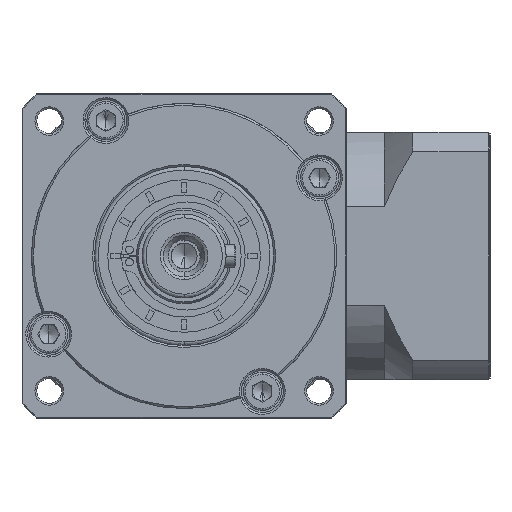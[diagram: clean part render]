
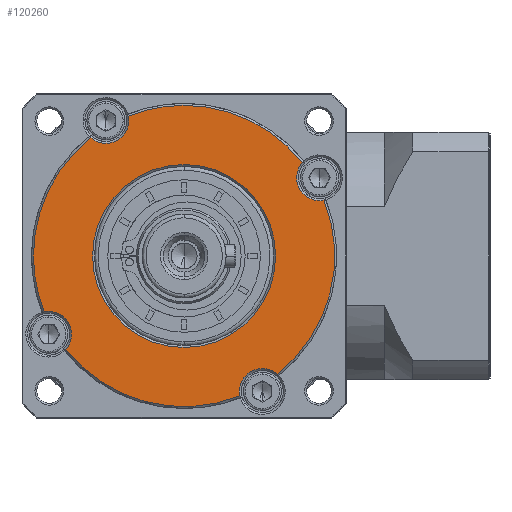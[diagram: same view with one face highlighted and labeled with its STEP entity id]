
A CAD part, left-side view. The second image highlights one B-rep face of the part: STEP entity #120260.
In plain terms, the highlighted planar face has unit normal (-1, 0, 0).
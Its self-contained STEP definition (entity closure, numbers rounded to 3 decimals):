
#893 = VERTEX_POINT ( 'NONE', #109513 ) ;
#2058 = EDGE_CURVE ( 'NONE', #65407, #8092, #27658, .T. ) ;
#5137 = EDGE_CURVE ( 'NONE', #8092, #172913, #115019, .T. ) ;
#7187 = EDGE_CURVE ( 'NONE', #135425, #107967, #164231, .T. ) ;
#8065 = CARTESIAN_POINT ( 'NONE',  ( -97.713, 14.512, -87.576 ) ) ;
#8092 = VERTEX_POINT ( 'NONE', #169255 ) ;
#9506 = ORIENTED_EDGE ( 'NONE', *, *, #57491, .T. ) ;
#11163 = VERTEX_POINT ( 'NONE', #166959 ) ;
#14720 = CIRCLE ( 'NONE', #62467, 39.5 ) ;
#16770 = EDGE_LOOP ( 'NONE', ( #45372, #56341 ) ) ;
#16992 = CIRCLE ( 'NONE', #27768, 39.5 ) ;
#18068 = CARTESIAN_POINT ( 'NONE',  ( -97.713, 26.738, -133.203 ) ) ;
#21265 = ORIENTED_EDGE ( 'NONE', *, *, #151108, .T. ) ;
#22247 = AXIS2_PLACEMENT_3D ( 'NONE', #78874, #173594, #92528 ) ;
#23041 = DIRECTION ( 'NONE',  ( 1., 0., 0. ) ) ;
#23684 = ORIENTED_EDGE ( 'NONE', *, *, #127367, .T. ) ;
#25493 = AXIS2_PLACEMENT_3D ( 'NONE', #51220, #146096, #64945 ) ;
#27303 = CIRCLE ( 'NONE', #34511, 39.5 ) ;
#27636 = VERTEX_POINT ( 'NONE', #84999 ) ;
#27658 = CIRCLE ( 'NONE', #50057, 39.5 ) ;
#27768 = AXIS2_PLACEMENT_3D ( 'NONE', #104477, #23041, #118035 ) ;
#28858 = ORIENTED_EDGE ( 'NONE', *, *, #152715, .F. ) ;
#29050 = AXIS2_PLACEMENT_3D ( 'NONE', #62525, #157263, #76213 ) ;
#30921 = EDGE_CURVE ( 'NONE', #11163, #80923, #48830, .T. ) ;
#34511 = AXIS2_PLACEMENT_3D ( 'NONE', #152087, #70942, #165684 ) ;
#37486 = CIRCLE ( 'NONE', #29050, 6. ) ;
#44519 = CARTESIAN_POINT ( 'NONE',  ( -97.713, -40.965, -94.115 ) ) ;
#45072 = AXIS2_PLACEMENT_3D ( 'NONE', #72355, #167085, #86016 ) ;
#45372 = ORIENTED_EDGE ( 'NONE', *, *, #141608, .T. ) ;
#45891 = CARTESIAN_POINT ( 'NONE',  ( -97.713, -24.576, -155.279 ) ) ;
#47630 = DIRECTION ( 'NONE',  ( 1., 0., 0. ) ) ;
#48147 = DIRECTION ( 'NONE',  ( 1., 0., 0. ) ) ;
#48830 = CIRCLE ( 'NONE', #174880, 6. ) ;
#48998 = DIRECTION ( 'NONE',  ( 1., 0., 0. ) ) ;
#49679 = ORIENTED_EDGE ( 'NONE', *, *, #91253, .F. ) ;
#50057 = AXIS2_PLACEMENT_3D ( 'NONE', #156778, #75716, #170442 ) ;
#50343 = ORIENTED_EDGE ( 'NONE', *, *, #92995, .T. ) ;
#50892 = AXIS2_PLACEMENT_3D ( 'NONE', #160792, #79691, #174419 ) ;
#51220 = CARTESIAN_POINT ( 'NONE',  ( -97.713, -9.957, -118.584 ) ) ;
#51805 = ORIENTED_EDGE ( 'NONE', *, *, #30921, .T. ) ;
#52199 = CARTESIAN_POINT ( 'NONE',  ( -97.713, 10.543, -83.077 ) ) ;
#54439 = ORIENTED_EDGE ( 'NONE', *, *, #159902, .T. ) ;
#56341 = ORIENTED_EDGE ( 'NONE', *, *, #7187, .T. ) ;
#57491 = EDGE_CURVE ( 'NONE', #95218, #172913, #139510, .T. ) ;
#58734 = DIRECTION ( 'NONE',  ( 1., 0., 0. ) ) ;
#62311 = AXIS2_PLACEMENT_3D ( 'NONE', #129460, #48147, #143036 ) ;
#62467 = AXIS2_PLACEMENT_3D ( 'NONE', #128934, #47630, #142523 ) ;
#62525 = CARTESIAN_POINT ( 'NONE',  ( -97.713, -30.457, -154.091 ) ) ;
#64945 = DIRECTION ( 'NONE',  ( 0., 0., 1. ) ) ;
#65192 = VERTEX_POINT ( 'NONE', #144705 ) ;
#65407 = VERTEX_POINT ( 'NONE', #18068 ) ;
#65518 = EDGE_CURVE ( 'NONE', #162988, #65192, #74132, .T. ) ;
#65922 = DIRECTION ( 'NONE',  ( 0., 0., -1. ) ) ;
#66194 = VERTEX_POINT ( 'NONE', #147261 ) ;
#68464 = VERTEX_POINT ( 'NONE', #164280 ) ;
#70942 = DIRECTION ( 'NONE',  ( 1., 0., 0. ) ) ;
#72355 = CARTESIAN_POINT ( 'NONE',  ( -97.713, -9.957, -118.584 ) ) ;
#72509 = CARTESIAN_POINT ( 'NONE',  ( -97.713, 10.543, -83.077 ) ) ;
#74132 = CIRCLE ( 'NONE', #25493, 39.5 ) ;
#74370 = AXIS2_PLACEMENT_3D ( 'NONE', #72509, #167239, #86177 ) ;
#75217 = CARTESIAN_POINT ( 'NONE',  ( -97.713, -9.957, -118.584 ) ) ;
#75716 = DIRECTION ( 'NONE',  ( 1., 0., 0. ) ) ;
#75780 = ORIENTED_EDGE ( 'NONE', *, *, #158894, .F. ) ;
#76213 = DIRECTION ( 'NONE',  ( 0., 0., -1. ) ) ;
#78874 = CARTESIAN_POINT ( 'NONE',  ( -97.713, -9.957, -118.584 ) ) ;
#79691 = DIRECTION ( 'NONE',  ( 1., 0., 0. ) ) ;
#80923 = VERTEX_POINT ( 'NONE', #44519 ) ;
#83215 = CIRCLE ( 'NONE', #45072, 24. ) ;
#84999 = CARTESIAN_POINT ( 'NONE',  ( -97.713, -46.653, -103.965 ) ) ;
#85546 = ORIENTED_EDGE ( 'NONE', *, *, #2058, .F. ) ;
#86016 = DIRECTION ( 'NONE',  ( 0., -1., 0. ) ) ;
#86177 = DIRECTION ( 'NONE',  ( 0., 0., -1. ) ) ;
#88861 = DIRECTION ( 'NONE',  ( 0., 1., 0. ) ) ;
#91253 = EDGE_CURVE ( 'NONE', #27636, #893, #14720, .T. ) ;
#92528 = DIRECTION ( 'NONE',  ( 0., 0., -1. ) ) ;
#92995 = EDGE_CURVE ( 'NONE', #27636, #11163, #121274, .T. ) ;
#93368 = FACE_OUTER_BOUND ( 'NONE', #171521, .T. ) ;
#95218 = VERTEX_POINT ( 'NONE', #167266 ) ;
#97303 = CIRCLE ( 'NONE', #50892, 6. ) ;
#100746 = CIRCLE ( 'NONE', #101481, 6. ) ;
#101481 = AXIS2_PLACEMENT_3D ( 'NONE', #52199, #147031, #65922 ) ;
#104290 = AXIS2_PLACEMENT_3D ( 'NONE', #75217, #169933, #88861 ) ;
#104477 = CARTESIAN_POINT ( 'NONE',  ( -97.713, -9.957, -118.584 ) ) ;
#105006 = PLANE ( 'NONE',  #22247 ) ;
#107967 = VERTEX_POINT ( 'NONE', #115703 ) ;
#109513 = CARTESIAN_POINT ( 'NONE',  ( -97.713, -34.427, -149.592 ) ) ;
#115019 = CIRCLE ( 'NONE', #104290, 39.5 ) ;
#115703 = CARTESIAN_POINT ( 'NONE',  ( -97.713, -33.957, -118.584 ) ) ;
#118035 = DIRECTION ( 'NONE',  ( 0., 0., 1. ) ) ;
#120260 = ADVANCED_FACE ( 'NONE', ( #93368, #129430 ), #105006, .T. ) ;
#121274 = CIRCLE ( 'NONE', #62311, 6. ) ;
#127367 = EDGE_CURVE ( 'NONE', #65407, #65192, #97303, .T. ) ;
#128934 = CARTESIAN_POINT ( 'NONE',  ( -97.713, -9.957, -118.584 ) ) ;
#129430 = FACE_BOUND ( 'NONE', #16770, .T. ) ;
#129460 = CARTESIAN_POINT ( 'NONE',  ( -97.713, -45.464, -98.084 ) ) ;
#130307 = CARTESIAN_POINT ( 'NONE',  ( -97.713, -9.957, -118.584 ) ) ;
#135425 = VERTEX_POINT ( 'NONE', #175886 ) ;
#136482 = AXIS2_PLACEMENT_3D ( 'NONE', #130307, #48998, #143870 ) ;
#139510 = CIRCLE ( 'NONE', #74370, 6. ) ;
#139994 = CARTESIAN_POINT ( 'NONE',  ( -97.713, -45.464, -98.084 ) ) ;
#141608 = EDGE_CURVE ( 'NONE', #107967, #135425, #83215, .T. ) ;
#142523 = DIRECTION ( 'NONE',  ( 0., 0., 1. ) ) ;
#142963 = ORIENTED_EDGE ( 'NONE', *, *, #65518, .F. ) ;
#143036 = DIRECTION ( 'NONE',  ( 0., 0., -1. ) ) ;
#143870 = DIRECTION ( 'NONE',  ( 0., -1., 0. ) ) ;
#144705 = CARTESIAN_POINT ( 'NONE',  ( -97.713, 21.051, -143.054 ) ) ;
#146096 = DIRECTION ( 'NONE',  ( 1., 0., 0. ) ) ;
#147031 = DIRECTION ( 'NONE',  ( 1., 0., 0. ) ) ;
#147261 = CARTESIAN_POINT ( 'NONE',  ( -97.713, 4.661, -81.889 ) ) ;
#151108 = EDGE_CURVE ( 'NONE', #66194, #95218, #100746, .T. ) ;
#152087 = CARTESIAN_POINT ( 'NONE',  ( -97.713, -9.957, -118.584 ) ) ;
#152701 = ORIENTED_EDGE ( 'NONE', *, *, #5137, .F. ) ;
#152715 = EDGE_CURVE ( 'NONE', #66194, #68464, #27303, .T. ) ;
#153561 = DIRECTION ( 'NONE',  ( 0., 0., -1. ) ) ;
#156778 = CARTESIAN_POINT ( 'NONE',  ( -97.713, -9.957, -118.584 ) ) ;
#157263 = DIRECTION ( 'NONE',  ( 1., 0., 0. ) ) ;
#158894 = EDGE_CURVE ( 'NONE', #68464, #80923, #16992, .T. ) ;
#159902 = EDGE_CURVE ( 'NONE', #162988, #893, #37486, .T. ) ;
#160792 = CARTESIAN_POINT ( 'NONE',  ( -97.713, 25.55, -139.084 ) ) ;
#162988 = VERTEX_POINT ( 'NONE', #45891 ) ;
#164231 = CIRCLE ( 'NONE', #136482, 24. ) ;
#164280 = CARTESIAN_POINT ( 'NONE',  ( -97.713, -9.957, -79.084 ) ) ;
#165684 = DIRECTION ( 'NONE',  ( 0., 0., 1. ) ) ;
#166959 = CARTESIAN_POINT ( 'NONE',  ( -97.713, -45.464, -104.084 ) ) ;
#167085 = DIRECTION ( 'NONE',  ( 1., 0., 0. ) ) ;
#167239 = DIRECTION ( 'NONE',  ( 1., 0., 0. ) ) ;
#167266 = CARTESIAN_POINT ( 'NONE',  ( -97.713, 10.543, -89.077 ) ) ;
#169255 = CARTESIAN_POINT ( 'NONE',  ( -97.713, 29.543, -118.584 ) ) ;
#169933 = DIRECTION ( 'NONE',  ( 1., 0., 0. ) ) ;
#170442 = DIRECTION ( 'NONE',  ( 0., 1., 0. ) ) ;
#171521 = EDGE_LOOP ( 'NONE', ( #28858, #21265, #9506, #152701, #85546, #23684, #142963, #54439, #49679, #50343, #51805, #75780 ) ) ;
#172913 = VERTEX_POINT ( 'NONE', #8065 ) ;
#173594 = DIRECTION ( 'NONE',  ( -1., 0., 0. ) ) ;
#174419 = DIRECTION ( 'NONE',  ( 0., 0., -1. ) ) ;
#174880 = AXIS2_PLACEMENT_3D ( 'NONE', #139994, #58734, #153561 ) ;
#175886 = CARTESIAN_POINT ( 'NONE',  ( -97.713, 14.043, -118.584 ) ) ;
